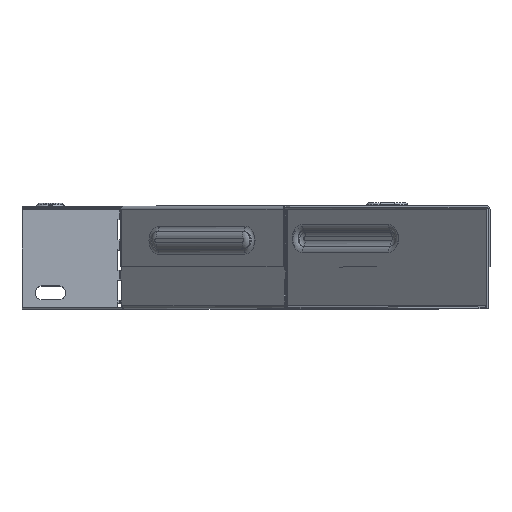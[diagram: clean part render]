
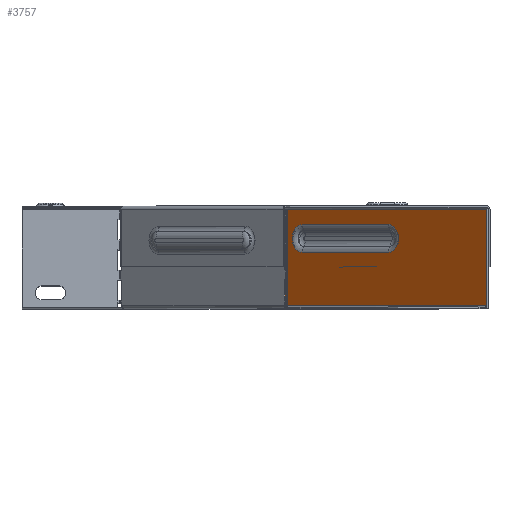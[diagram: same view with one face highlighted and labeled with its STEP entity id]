
A CAD part, top view. The second image highlights one B-rep face of the part: STEP entity #3757.
In plain terms, the highlighted planar face has unit normal (-0.707, 0, 0.707).
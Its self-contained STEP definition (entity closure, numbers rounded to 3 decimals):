
#106 = DIRECTION ( 'NONE',  ( 0.707, 0., 0.707 ) ) ;
#356 = EDGE_CURVE ( 'NONE', #9844, #7374, #652, .T. ) ;
#487 = FACE_BOUND ( 'NONE', #15764, .T. ) ;
#652 = LINE ( 'NONE', #1662, #1818 ) ;
#711 = EDGE_CURVE ( 'NONE', #9844, #14258, #8385, .T. ) ;
#924 = CARTESIAN_POINT ( 'NONE',  ( 114.434, 48.2, 25.566 ) ) ;
#1286 = DIRECTION ( 'NONE',  ( -0.707, 0., 0.707 ) ) ;
#1394 = CARTESIAN_POINT ( 'NONE',  ( 44.434, 27.179, -44.434 ) ) ;
#1662 = CARTESIAN_POINT ( 'NONE',  ( 114.434, 1., 25.566 ) ) ;
#1818 = VECTOR ( 'NONE', #14197, 1000. ) ;
#1840 = ORIENTED_EDGE ( 'NONE', *, *, #10395, .F. ) ;
#1986 = DIRECTION ( 'NONE',  ( -0.707, 0., 0.707 ) ) ;
#2382 = LINE ( 'NONE', #13703, #9919 ) ;
#2485 = DIRECTION ( 'NONE',  ( 0., 1., 0. ) ) ;
#2792 = DIRECTION ( 'NONE',  ( 0., 1., 0. ) ) ;
#2850 = CARTESIAN_POINT ( 'NONE',  ( 114.123, 48.2, 25.255 ) ) ;
#3757 = ADVANCED_FACE ( 'NONE', ( #487, #8623 ), #3785, .T. ) ;
#3785 = PLANE ( 'NONE',  #10205 ) ;
#3898 = ORIENTED_EDGE ( 'NONE', *, *, #356, .F. ) ;
#4354 = DIRECTION ( 'NONE',  ( 0., 1., 0. ) ) ;
#4399 = CIRCLE ( 'NONE', #14412, 6.917 ) ;
#5379 = DIRECTION ( 'NONE',  ( -0.707, 0., 0.707 ) ) ;
#5907 = AXIS2_PLACEMENT_3D ( 'NONE', #7911, #5379, #6632 ) ;
#6095 = DIRECTION ( 'NONE',  ( -0.707, 0., -0.707 ) ) ;
#6167 = EDGE_CURVE ( 'NONE', #7374, #6832, #2382, .T. ) ;
#6632 = DIRECTION ( 'NONE',  ( 0., 1., 0. ) ) ;
#6739 = VECTOR ( 'NONE', #106, 1000. ) ;
#6746 = VECTOR ( 'NONE', #7624, 1000. ) ;
#6832 = VERTEX_POINT ( 'NONE', #14715 ) ;
#6866 = ORIENTED_EDGE ( 'NONE', *, *, #711, .T. ) ;
#7131 = LINE ( 'NONE', #1394, #6739 ) ;
#7374 = VERTEX_POINT ( 'NONE', #9905 ) ;
#7556 = DIRECTION ( 'NONE',  ( 0.707, 0., 0.707 ) ) ;
#7617 = CARTESIAN_POINT ( 'NONE',  ( 114.123, 1., 25.255 ) ) ;
#7624 = DIRECTION ( 'NONE',  ( 0.707, 0., 0.707 ) ) ;
#7690 = VERTEX_POINT ( 'NONE', #9569 ) ;
#7694 = CARTESIAN_POINT ( 'NONE',  ( 114.123, 0., 25.255 ) ) ;
#7911 = CARTESIAN_POINT ( 'NONE',  ( 23.221, 34.096, -65.648 ) ) ;
#8066 = ORIENTED_EDGE ( 'NONE', *, *, #8123, .F. ) ;
#8123 = EDGE_CURVE ( 'NONE', #12501, #9284, #7131, .T. ) ;
#8170 = VERTEX_POINT ( 'NONE', #12772 ) ;
#8281 = VECTOR ( 'NONE', #6095, 1000. ) ;
#8294 = EDGE_CURVE ( 'NONE', #9284, #7690, #4399, .T. ) ;
#8385 = LINE ( 'NONE', #7694, #9358 ) ;
#8533 = CARTESIAN_POINT ( 'NONE',  ( 65.648, 27.179, -23.221 ) ) ;
#8623 = FACE_OUTER_BOUND ( 'NONE', #12336, .T. ) ;
#8745 = EDGE_CURVE ( 'NONE', #7690, #8170, #10821, .T. ) ;
#8833 = EDGE_CURVE ( 'NONE', #6832, #14258, #10043, .T. ) ;
#9284 = VERTEX_POINT ( 'NONE', #8533 ) ;
#9358 = VECTOR ( 'NONE', #2792, 1000. ) ;
#9569 = CARTESIAN_POINT ( 'NONE',  ( 65.648, 41.013, -23.221 ) ) ;
#9844 = VERTEX_POINT ( 'NONE', #7617 ) ;
#9875 = ORIENTED_EDGE ( 'NONE', *, *, #6167, .F. ) ;
#9905 = CARTESIAN_POINT ( 'NONE',  ( -25.255, 1., -114.123 ) ) ;
#9919 = VECTOR ( 'NONE', #2485, 1000. ) ;
#10043 = LINE ( 'NONE', #924, #6746 ) ;
#10205 = AXIS2_PLACEMENT_3D ( 'NONE', #12406, #1286, #7556 ) ;
#10395 = EDGE_CURVE ( 'NONE', #8170, #12501, #14675, .T. ) ;
#10821 = LINE ( 'NONE', #10900, #8281 ) ;
#10900 = CARTESIAN_POINT ( 'NONE',  ( 44.434, 41.013, -44.434 ) ) ;
#11863 = CARTESIAN_POINT ( 'NONE',  ( 65.648, 34.096, -23.221 ) ) ;
#12336 = EDGE_LOOP ( 'NONE', ( #3898, #6866, #16073, #9875 ) ) ;
#12406 = CARTESIAN_POINT ( 'NONE',  ( 44.434, 0., -44.434 ) ) ;
#12501 = VERTEX_POINT ( 'NONE', #16017 ) ;
#12772 = CARTESIAN_POINT ( 'NONE',  ( 23.221, 41.013, -65.648 ) ) ;
#13703 = CARTESIAN_POINT ( 'NONE',  ( -25.255, 0., -114.123 ) ) ;
#14197 = DIRECTION ( 'NONE',  ( -0.707, 0., -0.707 ) ) ;
#14258 = VERTEX_POINT ( 'NONE', #2850 ) ;
#14412 = AXIS2_PLACEMENT_3D ( 'NONE', #11863, #1986, #4354 ) ;
#14675 = CIRCLE ( 'NONE', #5907, 6.917 ) ;
#14715 = CARTESIAN_POINT ( 'NONE',  ( -25.255, 48.2, -114.123 ) ) ;
#15282 = ORIENTED_EDGE ( 'NONE', *, *, #8745, .F. ) ;
#15764 = EDGE_LOOP ( 'NONE', ( #1840, #15282, #15845, #8066 ) ) ;
#15845 = ORIENTED_EDGE ( 'NONE', *, *, #8294, .F. ) ;
#16017 = CARTESIAN_POINT ( 'NONE',  ( 23.221, 27.179, -65.648 ) ) ;
#16073 = ORIENTED_EDGE ( 'NONE', *, *, #8833, .F. ) ;
